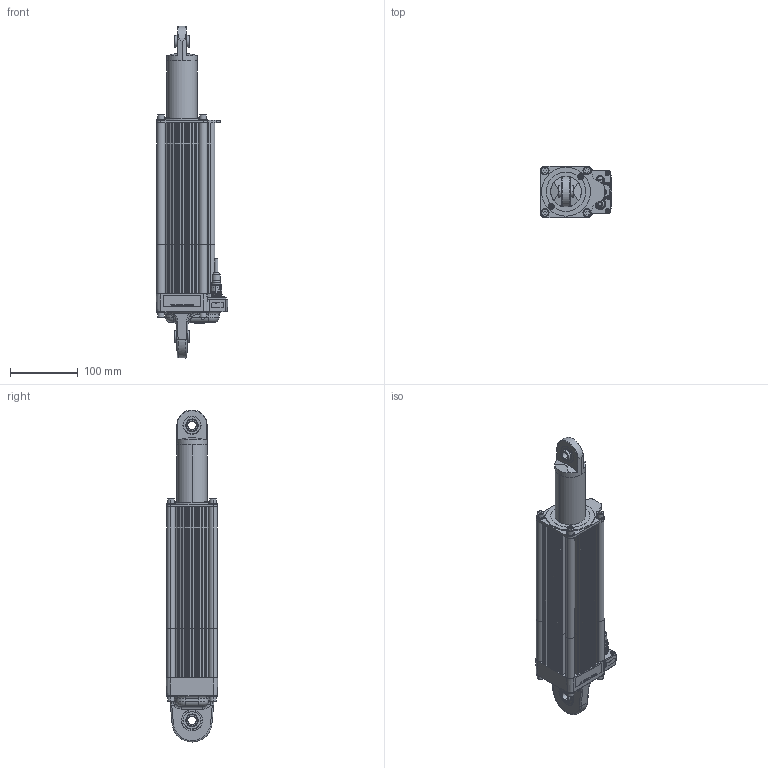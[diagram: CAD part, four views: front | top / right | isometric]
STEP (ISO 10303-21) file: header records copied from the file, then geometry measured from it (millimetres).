
FILE_DESCRIPTION (( 'STEP AP214' ), '1' );
FILE_NAME ('AG_9123.STEP', '2022-07-26T08:33:51', ( '' ), ( '' ), 'SwSTEP 2.0', 'SolidWorks 2019', '' );
FILE_SCHEMA (( 'AUTOMOTIVE_DESIGN' ));
Length unit declared in the file: millimetre
Products named in the file (1): AG_9123
Bounding box: 105.43 x 76.28 x 489.5 mm (x, y, z)
Volume: 1687509.7 mm3; surface area: 367097 mm2
Topology: 56 solids, 56 shells, 3279 faces, 8878 edges, 5869 vertices
Faces by surface type: plane 1359, cylinder 1307, bspline 309, cone 210, torus 60, sphere 34
Entity records: 162300 total; most frequent: CARTESIAN_POINT 43898, ORIENTED_EDGE 17644, DIRECTION 16605, EDGE_CURVE 8822, AXIS2_PLACEMENT_3D 6027, VERTEX_POINT 5857, VECTOR 4551, LINE 4551
